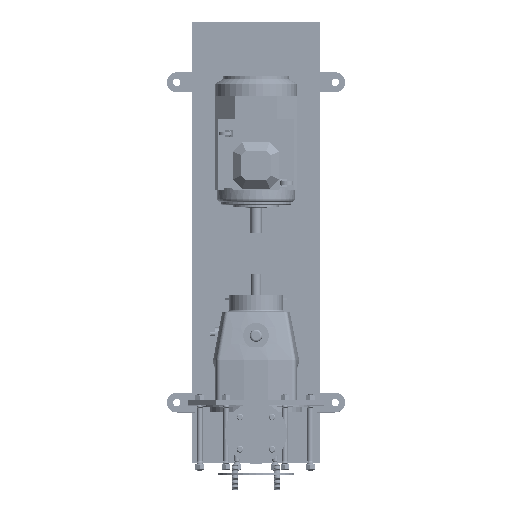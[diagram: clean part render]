
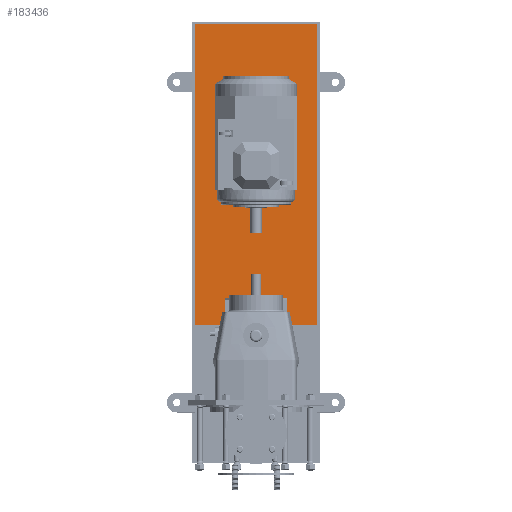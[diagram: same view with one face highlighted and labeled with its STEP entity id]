
A CAD part, top view. The second image highlights one B-rep face of the part: STEP entity #183436.
In plain terms, the highlighted planar face has unit normal (0, 0, 1).
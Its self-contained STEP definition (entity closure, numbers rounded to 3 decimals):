
#183371=CARTESIAN_POINT('',(148.5,341.0,-150.0));
#183372=VERTEX_POINT('',#183371);
#183373=CARTESIAN_POINT('',(-148.5,341.0,-150.0));
#183374=VERTEX_POINT('',#183373);
#183375=CARTESIAN_POINT('',(148.5,341.0,-150.0));
#183376=DIRECTION('',(-1.0,0.0,0.0));
#183377=VECTOR('',#183376,297.0);
#183378=LINE('',#183375,#183377);
#183379=EDGE_CURVE('',#183372,#183374,#183378,.T.);
#183406=CARTESIAN_POINT('',(0.,704.5,-150.0));
#183407=DIRECTION('',(0.0,0.0,1.0));
#183408=DIRECTION('',(1.0,0.0,0.0));
#183409=AXIS2_PLACEMENT_3D('',#183406,#183407,#183408);
#183410=PLANE('',#183409);
#183411=CARTESIAN_POINT('',(-148.5,1068.0,-150.0));
#183412=VERTEX_POINT('',#183411);
#183413=CARTESIAN_POINT('',(148.5,1068.0,-150.0));
#183414=VERTEX_POINT('',#183413);
#183415=CARTESIAN_POINT('',(-148.5,1068.0,-150.0));
#183416=DIRECTION('',(1.0,0.0,0.0));
#183417=VECTOR('',#183416,297.0);
#183418=LINE('',#183415,#183417);
#183419=EDGE_CURVE('',#183412,#183414,#183418,.T.);
#183420=ORIENTED_EDGE('',*,*,#183419,.F.);
#183421=CARTESIAN_POINT('',(-148.5,341.0,-150.0));
#183422=DIRECTION('',(0.0,1.0,0.0));
#183423=VECTOR('',#183422,727.0);
#183424=LINE('',#183421,#183423);
#183425=EDGE_CURVE('',#183374,#183412,#183424,.T.);
#183426=ORIENTED_EDGE('',*,*,#183425,.F.);
#183427=ORIENTED_EDGE('',*,*,#183379,.F.);
#183428=CARTESIAN_POINT('',(148.5,1068.0,-150.0));
#183429=DIRECTION('',(0.0,-1.0,0.0));
#183430=VECTOR('',#183429,727.0);
#183431=LINE('',#183428,#183430);
#183432=EDGE_CURVE('',#183414,#183372,#183431,.T.);
#183433=ORIENTED_EDGE('',*,*,#183432,.F.);
#183434=EDGE_LOOP('',(#183420,#183426,#183427,#183433));
#183435=FACE_OUTER_BOUND('',#183434,.T.);
#183436=ADVANCED_FACE('',(#183435),#183410,.T.);
